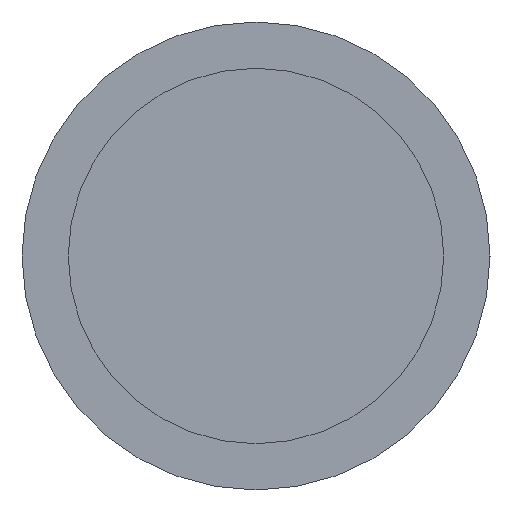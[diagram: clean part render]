
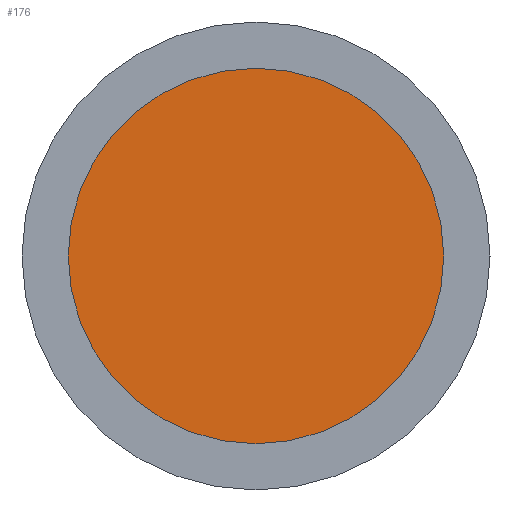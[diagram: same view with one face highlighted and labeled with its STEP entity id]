
A CAD part, left-side view. The second image highlights one B-rep face of the part: STEP entity #176.
In plain terms, the highlighted planar face has unit normal (-1, 0, 0).
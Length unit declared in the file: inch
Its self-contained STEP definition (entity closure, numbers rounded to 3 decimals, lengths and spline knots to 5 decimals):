
#61=FACE_OUTER_BOUND('',#69,.T.);
#69=EDGE_LOOP('',(#125,#126));
#78=CIRCLE('',#205,0.337);
#79=CIRCLE('',#206,0.337);
#92=VERTEX_POINT('',#318);
#93=VERTEX_POINT('',#319);
#106=EDGE_CURVE('',#92,#93,#78,.T.);
#107=EDGE_CURVE('',#93,#92,#79,.T.);
#125=ORIENTED_EDGE('',*,*,#106,.F.);
#126=ORIENTED_EDGE('',*,*,#107,.F.);
#163=PLANE('',#204);
#176=ADVANCED_FACE('',(#61),#163,.T.);
#204=AXIS2_PLACEMENT_3D('',#317,#241,#242);
#205=AXIS2_PLACEMENT_3D('',#320,#243,#244);
#206=AXIS2_PLACEMENT_3D('',#321,#245,#246);
#241=DIRECTION('center_axis',(-1.,0.,0.));
#242=DIRECTION('ref_axis',(0.,0.,1.));
#243=DIRECTION('center_axis',(1.,0.,0.));
#244=DIRECTION('ref_axis',(0.,1.,0.));
#245=DIRECTION('center_axis',(1.,0.,0.));
#246=DIRECTION('ref_axis',(0.,1.,0.));
#317=CARTESIAN_POINT('Origin',(1.917,0.1685,0.));
#318=CARTESIAN_POINT('',(1.917,0.337,0.));
#319=CARTESIAN_POINT('',(1.917,-0.337,0.));
#320=CARTESIAN_POINT('Origin',(1.917,0.,0.));
#321=CARTESIAN_POINT('Origin',(1.917,0.,0.));
